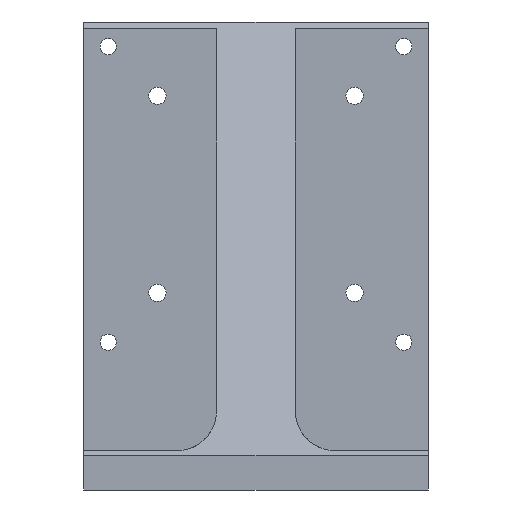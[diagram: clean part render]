
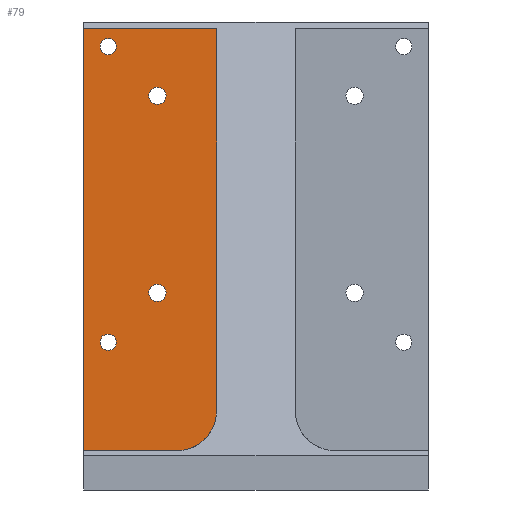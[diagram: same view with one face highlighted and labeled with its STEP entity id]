
A CAD part, left-side view. The second image highlights one B-rep face of the part: STEP entity #79.
In plain terms, the highlighted planar face has unit normal (-1, 0, 0).
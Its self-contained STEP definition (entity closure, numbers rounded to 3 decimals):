
#79 = ADVANCED_FACE( '', ( #121, #122, #123, #124, #125 ), #126, .T. );
#121 = FACE_BOUND( '', #215, .T. );
#122 = FACE_BOUND( '', #216, .T. );
#123 = FACE_BOUND( '', #217, .T. );
#124 = FACE_OUTER_BOUND( '', #218, .T. );
#125 = FACE_BOUND( '', #219, .T. );
#126 = PLANE( '', #220 );
#215 = EDGE_LOOP( '', ( #328 ) );
#216 = EDGE_LOOP( '', ( #329 ) );
#217 = EDGE_LOOP( '', ( #330 ) );
#218 = EDGE_LOOP( '', ( #331, #332, #333, #334, #335 ) );
#219 = EDGE_LOOP( '', ( #336 ) );
#220 = AXIS2_PLACEMENT_3D( '', #337, #338, #339 );
#328 = ORIENTED_EDGE( '', *, *, #540, .T. );
#329 = ORIENTED_EDGE( '', *, *, #541, .T. );
#330 = ORIENTED_EDGE( '', *, *, #542, .T. );
#331 = ORIENTED_EDGE( '', *, *, #543, .F. );
#332 = ORIENTED_EDGE( '', *, *, #544, .F. );
#333 = ORIENTED_EDGE( '', *, *, #535, .F. );
#334 = ORIENTED_EDGE( '', *, *, #538, .F. );
#335 = ORIENTED_EDGE( '', *, *, #545, .F. );
#336 = ORIENTED_EDGE( '', *, *, #546, .T. );
#337 = CARTESIAN_POINT( '', ( 20.5, 16., 16. ) );
#338 = DIRECTION( '', ( -1., 0., 0. ) );
#339 = DIRECTION( '', ( 0., 0., 1. ) );
#535 = EDGE_CURVE( '', #620, #622, #623, .T. );
#538 = EDGE_CURVE( '', #627, #620, #628, .T. );
#540 = EDGE_CURVE( '', #630, #630, #631, .T. );
#541 = EDGE_CURVE( '', #632, #632, #633, .T. );
#542 = EDGE_CURVE( '', #634, #634, #635, .F. );
#543 = EDGE_CURVE( '', #636, #637, #638, .T. );
#544 = EDGE_CURVE( '', #622, #636, #639, .T. );
#545 = EDGE_CURVE( '', #637, #627, #640, .T. );
#546 = EDGE_CURVE( '', #641, #641, #642, .F. );
#620 = VERTEX_POINT( '', #751 );
#622 = VERTEX_POINT( '', #754 );
#623 = CIRCLE( '', #755, 8. );
#627 = VERTEX_POINT( '', #760 );
#628 = LINE( '', #761, #762 );
#630 = VERTEX_POINT( '', #765 );
#631 = CIRCLE( '', #766, 1.65 );
#632 = VERTEX_POINT( '', #767 );
#633 = CIRCLE( '', #768, 1.65 );
#634 = VERTEX_POINT( '', #769 );
#635 = CIRCLE( '', #770, 1.75 );
#636 = VERTEX_POINT( '', #771 );
#637 = VERTEX_POINT( '', #772 );
#638 = LINE( '', #773, #774 );
#639 = LINE( '', #775, #776 );
#640 = LINE( '', #777, #778 );
#641 = VERTEX_POINT( '', #779 );
#642 = CIRCLE( '', #780, 1.75 );
#751 = CARTESIAN_POINT( '', ( 20.5, 8., 16. ) );
#754 = CARTESIAN_POINT( '', ( 20.5, 16., 8. ) );
#755 = AXIS2_PLACEMENT_3D( '', #907, #908, #909 );
#760 = CARTESIAN_POINT( '', ( 20.5, 8., 93.594 ) );
#761 = CARTESIAN_POINT( '', ( 20.5, 8., 95. ) );
#762 = VECTOR( '', #914, 1000. );
#765 = CARTESIAN_POINT( '', ( 20.5, 30., 88.35 ) );
#766 = AXIS2_PLACEMENT_3D( '', #916, #917, #918 );
#767 = CARTESIAN_POINT( '', ( 20.5, 30., 28.35 ) );
#768 = AXIS2_PLACEMENT_3D( '', #919, #920, #921 );
#769 = CARTESIAN_POINT( '', ( 20.5, 20., 41.75 ) );
#770 = AXIS2_PLACEMENT_3D( '', #922, #923, #924 );
#771 = CARTESIAN_POINT( '', ( 20.5, 35., 8. ) );
#772 = CARTESIAN_POINT( '', ( 20.5, 35., 93.594 ) );
#773 = CARTESIAN_POINT( '', ( 20.5, 35., 8. ) );
#774 = VECTOR( '', #925, 1000. );
#775 = CARTESIAN_POINT( '', ( 20.5, 16., 8. ) );
#776 = VECTOR( '', #926, 1000. );
#777 = CARTESIAN_POINT( '', ( 20.5, 273.839, 93.594 ) );
#778 = VECTOR( '', #927, 1000. );
#779 = CARTESIAN_POINT( '', ( 20.5, 20., 81.75 ) );
#780 = AXIS2_PLACEMENT_3D( '', #928, #929, #930 );
#907 = CARTESIAN_POINT( '', ( 20.5, 16., 16. ) );
#908 = DIRECTION( '', ( 1., 0., 0. ) );
#909 = DIRECTION( '', ( 0., -1., 0. ) );
#914 = DIRECTION( '', ( 0., 0., -1. ) );
#916 = CARTESIAN_POINT( '', ( 20.5, 30., 90. ) );
#917 = DIRECTION( '', ( 1., 0., 0. ) );
#918 = DIRECTION( '', ( 0., 0., -1. ) );
#919 = CARTESIAN_POINT( '', ( 20.5, 30., 30. ) );
#920 = DIRECTION( '', ( 1., 0., 0. ) );
#921 = DIRECTION( '', ( 0., 0., -1. ) );
#922 = CARTESIAN_POINT( '', ( 20.5, 20., 40. ) );
#923 = DIRECTION( '', ( -1., 0., 0. ) );
#924 = DIRECTION( '', ( 0., 0., 1. ) );
#925 = DIRECTION( '', ( 0., 0., 1. ) );
#926 = DIRECTION( '', ( 0., 1., 0. ) );
#927 = DIRECTION( '', ( 0., -1., 0. ) );
#928 = CARTESIAN_POINT( '', ( 20.5, 20., 80. ) );
#929 = DIRECTION( '', ( -1., 0., 0. ) );
#930 = DIRECTION( '', ( 0., 0., 1. ) );
